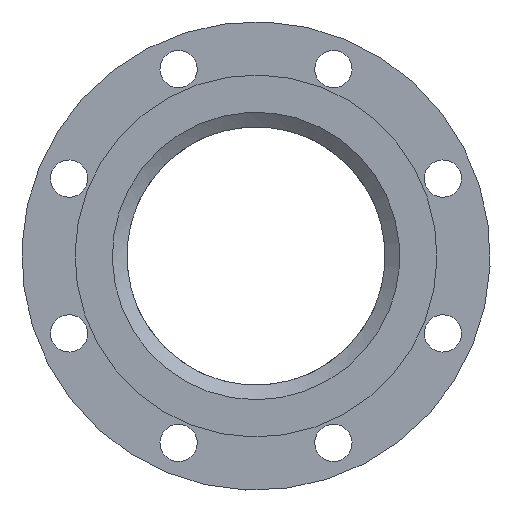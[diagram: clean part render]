
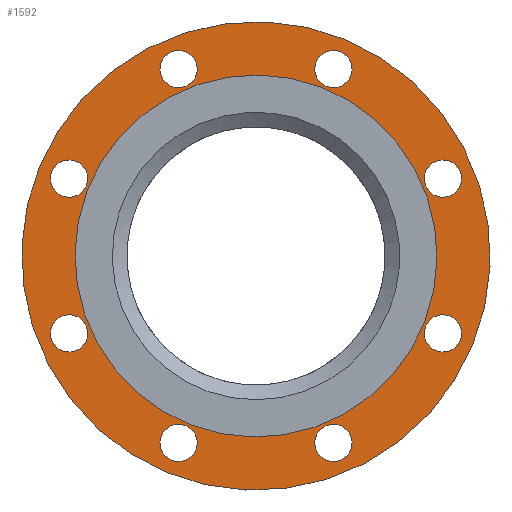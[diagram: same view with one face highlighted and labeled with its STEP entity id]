
A CAD part, front view. The second image highlights one B-rep face of the part: STEP entity #1592.
In plain terms, the highlighted planar face has unit normal (0, -1, 0).
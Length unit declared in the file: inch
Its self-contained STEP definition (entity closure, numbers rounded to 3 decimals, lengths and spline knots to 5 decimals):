
#62=PLANE('',#1746);
#142=FACE_BOUND('',#447,.T.);
#143=FACE_BOUND('',#448,.T.);
#144=FACE_BOUND('',#449,.T.);
#145=FACE_BOUND('',#450,.T.);
#146=FACE_BOUND('',#451,.T.);
#147=FACE_BOUND('',#452,.T.);
#148=FACE_BOUND('',#453,.T.);
#149=FACE_BOUND('',#454,.T.);
#150=FACE_BOUND('',#455,.T.);
#287=FACE_OUTER_BOUND('',#446,.T.);
#446=EDGE_LOOP('',(#1171));
#447=EDGE_LOOP('',(#1172));
#448=EDGE_LOOP('',(#1173));
#449=EDGE_LOOP('',(#1174));
#450=EDGE_LOOP('',(#1175));
#451=EDGE_LOOP('',(#1176));
#452=EDGE_LOOP('',(#1177));
#453=EDGE_LOOP('',(#1178));
#454=EDGE_LOOP('',(#1179));
#455=EDGE_LOOP('',(#1180));
#715=CIRCLE('',#1747,5.5);
#716=CIRCLE('',#1748,0.4375);
#717=CIRCLE('',#1749,0.4375);
#718=CIRCLE('',#1750,0.4375);
#719=CIRCLE('',#1751,0.4375);
#720=CIRCLE('',#1752,0.4375);
#721=CIRCLE('',#1753,0.4375);
#722=CIRCLE('',#1754,0.4375);
#723=CIRCLE('',#1755,0.4375);
#724=CIRCLE('',#1756,4.25);
#860=VERTEX_POINT('',#2595);
#861=VERTEX_POINT('',#2597);
#862=VERTEX_POINT('',#2599);
#863=VERTEX_POINT('',#2601);
#864=VERTEX_POINT('',#2603);
#865=VERTEX_POINT('',#2605);
#866=VERTEX_POINT('',#2607);
#867=VERTEX_POINT('',#2609);
#868=VERTEX_POINT('',#2611);
#869=VERTEX_POINT('',#2613);
#1005=EDGE_CURVE('',#860,#860,#715,.T.);
#1006=EDGE_CURVE('',#861,#861,#716,.T.);
#1007=EDGE_CURVE('',#862,#862,#717,.T.);
#1008=EDGE_CURVE('',#863,#863,#718,.T.);
#1009=EDGE_CURVE('',#864,#864,#719,.T.);
#1010=EDGE_CURVE('',#865,#865,#720,.T.);
#1011=EDGE_CURVE('',#866,#866,#721,.T.);
#1012=EDGE_CURVE('',#867,#867,#722,.T.);
#1013=EDGE_CURVE('',#868,#868,#723,.T.);
#1014=EDGE_CURVE('',#869,#869,#724,.T.);
#1171=ORIENTED_EDGE('',*,*,#1005,.T.);
#1172=ORIENTED_EDGE('',*,*,#1006,.T.);
#1173=ORIENTED_EDGE('',*,*,#1007,.T.);
#1174=ORIENTED_EDGE('',*,*,#1008,.T.);
#1175=ORIENTED_EDGE('',*,*,#1009,.T.);
#1176=ORIENTED_EDGE('',*,*,#1010,.T.);
#1177=ORIENTED_EDGE('',*,*,#1011,.T.);
#1178=ORIENTED_EDGE('',*,*,#1012,.T.);
#1179=ORIENTED_EDGE('',*,*,#1013,.T.);
#1180=ORIENTED_EDGE('',*,*,#1014,.F.);
#1592=ADVANCED_FACE('',(#287,#142,#143,#144,#145,#146,#147,#148,#149,#150),
#62,.T.);
#1746=AXIS2_PLACEMENT_3D('',#2594,#2059,#2060);
#1747=AXIS2_PLACEMENT_3D('',#2596,#2061,#2062);
#1748=AXIS2_PLACEMENT_3D('',#2598,#2063,#2064);
#1749=AXIS2_PLACEMENT_3D('',#2600,#2065,#2066);
#1750=AXIS2_PLACEMENT_3D('',#2602,#2067,#2068);
#1751=AXIS2_PLACEMENT_3D('',#2604,#2069,#2070);
#1752=AXIS2_PLACEMENT_3D('',#2606,#2071,#2072);
#1753=AXIS2_PLACEMENT_3D('',#2608,#2073,#2074);
#1754=AXIS2_PLACEMENT_3D('',#2610,#2075,#2076);
#1755=AXIS2_PLACEMENT_3D('',#2612,#2077,#2078);
#1756=AXIS2_PLACEMENT_3D('',#2614,#2079,#2080);
#2059=DIRECTION('center_axis',(0.,-1.,0.));
#2060=DIRECTION('ref_axis',(-0.924,0.,0.383));
#2061=DIRECTION('center_axis',(0.,-1.,0.));
#2062=DIRECTION('ref_axis',(-0.924,0.,0.383));
#2063=DIRECTION('center_axis',(0.,1.,0.));
#2064=DIRECTION('ref_axis',(-0.924,0.,-0.383));
#2065=DIRECTION('center_axis',(0.,1.,0.));
#2066=DIRECTION('ref_axis',(-0.383,0.,-0.924));
#2067=DIRECTION('center_axis',(0.,1.,0.));
#2068=DIRECTION('ref_axis',(0.383,0.,-0.924));
#2069=DIRECTION('center_axis',(0.,1.,0.));
#2070=DIRECTION('ref_axis',(0.924,0.,-0.383));
#2071=DIRECTION('center_axis',(0.,1.,0.));
#2072=DIRECTION('ref_axis',(0.924,0.,0.383));
#2073=DIRECTION('center_axis',(0.,1.,0.));
#2074=DIRECTION('ref_axis',(0.383,0.,0.924));
#2075=DIRECTION('center_axis',(0.,1.,0.));
#2076=DIRECTION('ref_axis',(-0.383,0.,0.924));
#2077=DIRECTION('center_axis',(0.,1.,0.));
#2078=DIRECTION('ref_axis',(-0.924,0.,0.383));
#2079=DIRECTION('center_axis',(0.,-1.,0.));
#2080=DIRECTION('ref_axis',(-0.857,0.,0.515));
#2594=CARTESIAN_POINT('Origin',(0.,0.5,
0.));
#2595=CARTESIAN_POINT('',(5.08134,0.5,-2.10476));
#2596=CARTESIAN_POINT('Origin',(0.,0.5,
0.));
#2597=CARTESIAN_POINT('',(1.41355,0.5,-4.55585));
#2598=CARTESIAN_POINT('Origin',(1.81775,0.5,-4.38843));
#2599=CARTESIAN_POINT('',(4.221,0.5,-2.22194));
#2600=CARTESIAN_POINT('Origin',(4.38843,0.5,-1.81775));
#2601=CARTESIAN_POINT('',(4.55585,0.5,1.41355));
#2602=CARTESIAN_POINT('Origin',(4.38843,0.5,1.81775));
#2603=CARTESIAN_POINT('',(2.22194,0.5,4.221));
#2604=CARTESIAN_POINT('Origin',(1.81775,0.5,4.38843));
#2605=CARTESIAN_POINT('',(-1.41355,0.5,4.55585));
#2606=CARTESIAN_POINT('Origin',(-1.81775,0.5,4.38843));
#2607=CARTESIAN_POINT('',(-4.221,0.5,2.22194));
#2608=CARTESIAN_POINT('Origin',(-4.38843,0.5,1.81775));
#2609=CARTESIAN_POINT('',(-4.55585,0.5,-1.41355));
#2610=CARTESIAN_POINT('Origin',(-4.38843,0.5,-1.81775));
#2611=CARTESIAN_POINT('',(-2.22194,0.5,-4.221));
#2612=CARTESIAN_POINT('Origin',(-1.81775,0.5,-4.38843));
#2613=CARTESIAN_POINT('',(3.6441,0.5,-2.18702));
#2614=CARTESIAN_POINT('Origin',(0.,0.5,0.));
